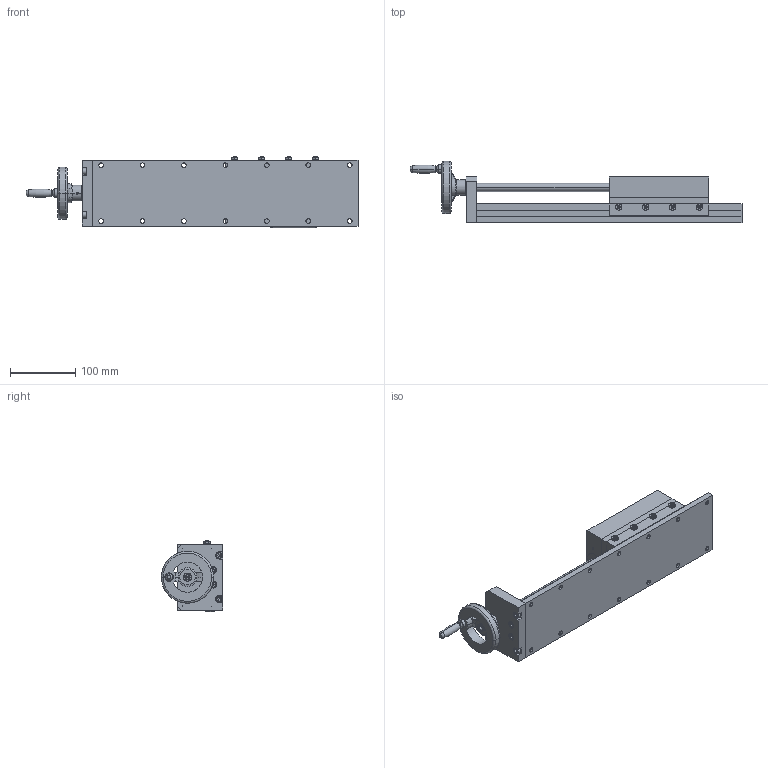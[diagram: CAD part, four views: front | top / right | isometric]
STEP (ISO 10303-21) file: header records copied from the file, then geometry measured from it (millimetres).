
FILE_DESCRIPTION (( 'STEP AP214' ), '1' );
FILE_NAME ('SW04-SL06-BL16-LS.STEP', '2011-11-04T18:48:47', ( '' ), ( '' ), 'SwSTEP 2.0', 'SolidWorks 2011', '' );
FILE_SCHEMA (( 'AUTOMOTIVE_DESIGN' ));
Length unit declared in the file: inch
Products named in the file (27): spring pin slotted_ai_SPS 0.125x1; socket head cap screw_ai_HX-SHCS 0.19-32x0.5x0.5-N; AHTNK80; EW-10; socket head cap screw_ai_HX-SHCS 0.25-20x0.75x0.75-N; 7806K64; Gen2 End Plate_04 EPLATE; socket head cap screw_ai_HX-SHCS 0.25-20x0.5x0.5-N; EW-20; Lead Screw_1_2-10 x 10.88 Lg; spring pin slotted_ai_SPS 0.1875x1.25; Lead Nut_1_2-10; socket head cap screw_ai_HX-SHCS 0.25-20x1.25x1.25-N; Gen2 Nut Plate_04x06 NPLATE; Gen2 SLIDE_SW04-SL06-BL16; Gen2 SADDLE_04x06 SADDLE; machine screw nut hex_ai_MSHXNUT 0.190-32-D-N; socket set screw cup point_ai_SSCUPSKT 0.19-32x0.875-HX-N; Tag; Gen2 Bar_04x06 BAR; Gen2 Adj Gib_04x06 ADJ GIB; Gen2 Gib_04x06 GIB; Gen2 Top plate_04x06 TPLATE; Gen2 BASE_04x16 BASE; Gen2 Hardplate_04x16 HPLATE; Gen2 Baseplate_04x16 BASE; SW04-SL06-BL16-LS
Assembly tree (39 placements, depth 4):
  SW04-SL06-BL16-LS
    socket head cap screw_ai_HX-SHCS 0.25-20x0.75x0.75-N  x4
    EW-10
    socket head cap screw_ai_HX-SHCS 0.25-20x1.25x1.25-N  x4
    7806K64  x2
    Lead Screw_1_2-10 x 10.88 Lg
    spring pin slotted_ai_SPS 0.1875x1.25
    Lead Nut_1_2-10
    Gen2 Nut Plate_04x06 NPLATE
    AHTNK80
    Gen2 End Plate_04 EPLATE
    socket head cap screw_ai_HX-SHCS 0.25-20x0.5x0.5-N
    EW-20
    spring pin slotted_ai_SPS 0.125x1
    socket head cap screw_ai_HX-SHCS 0.19-32x0.5x0.5-N
    Gen2 SLIDE_SW04-SL06-BL16
      Gen2 SADDLE_04x06 SADDLE
        machine screw nut hex_ai_MSHXNUT 0.190-32-D-N  x4
        socket set screw cup point_ai_SSCUPSKT 0.19-32x0.875-HX-N  x4
        Gen2 Bar_04x06 BAR
        Gen2 Gib_04x06 GIB
        Tag
        Gen2 Top plate_04x06 TPLATE
        Gen2 Adj Gib_04x06 ADJ GIB
      Gen2 BASE_04x16 BASE
        Gen2 Hardplate_04x16 HPLATE
        Gen2 Baseplate_04x16 BASE
Bounding box: 508.7 x 93.97 x 109.14 mm (x, y, z)
Volume: 1719336.5 mm3; surface area: 403994.9 mm2
Topology: 57 solids, 57 shells, 1023 faces, 2418 edges, 1408 vertices
Faces by surface type: plane 382, cylinder 299, cone 202, bspline 84, torus 54, sphere 2
Entity records: 23329 total; most frequent: CARTESIAN_POINT 5695, DIRECTION 3412, ORIENTED_EDGE 3006, EDGE_CURVE 1503, AXIS2_PLACEMENT_3D 1353, VERTEX_POINT 954, EDGE_LOOP 829, VECTOR 706
